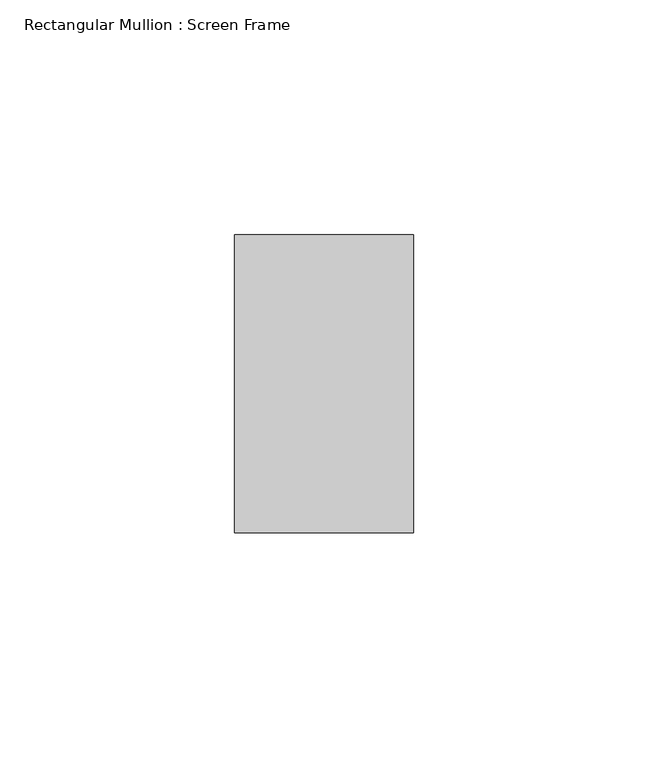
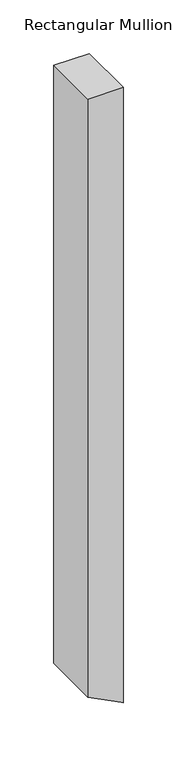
"""IFC4 building model written with IfcOpenShell, lengths in millimetres: member geometry, Rectangular Mullion : Screen Frame."""

from ifc_helpers import new_model, si_unit, frame, origin, place, context, project, spatial, polyline, outline, extrude, source, transform, mapped, element, save


def rectangular_mullion_screen_frame_31afa89d(model_context):
    return source(origin(), model_context, "Body", "SweptSolid", [
        extrude(outline(polyline([(0.0, 19.05), (0.0, -19.05), (-680.5744418, -19.05), (-699.0336934, 17.2644466), (-699.9413206, 19.05), (0.0, 19.05)])), frame((0.0, -31.75, 0.0), z_axis=(0.0, 1.0, 0.0), x_axis=(0.0, 0.0, 1.0)), (0.0, 0.0, 1.0), 63.5),
    ])


if __name__ == "__main__":
    model = new_model("IFC4")
    model_context = context("Model", 3, world=origin())
    ifc_project = project(units=[si_unit("LENGTHUNIT", "METRE", prefix="MILLI")], contexts=[model_context])
    site = spatial("IfcSite", under=ifc_project)
    building = spatial("IfcBuilding", under=site)
    placement = place(None, origin())
    rectangular_mullion_screen_frame_shape = rectangular_mullion_screen_frame_31afa89d(model_context)
    element("IfcMember", 1, ObjectType="Rectangular Mullion : Screen Frame", at=placement, inside=building, context=model_context, shape_type="MappedRepresentation", body=[
        mapped(rectangular_mullion_screen_frame_shape, transform((0.0, 0.0, 0.0), x_axis=(1.0, 0.0, 0.0), y_axis=(0.0, 1.0, 0.0), z_axis=(0.0, 0.0, 1.0))),
    ])
    save(model, "model.ifc")
